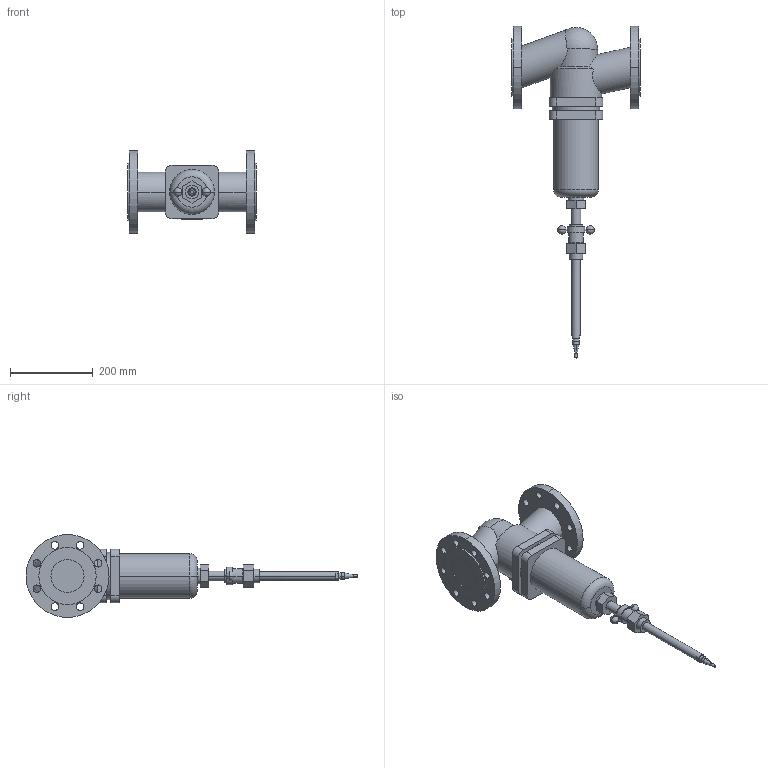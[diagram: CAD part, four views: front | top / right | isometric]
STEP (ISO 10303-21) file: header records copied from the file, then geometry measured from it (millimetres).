
FILE_DESCRIPTION(('CoCreate Modeling STEP Export'),'2;1');
FILE_NAME('c000004776.stp','2011-09-21T 9:19:56',(''),(''),'CoCreate Modeling STEP processor for AP214 (Solid Model)','CoCreate Modeling 17.0 01-Apr-2010 (C) Parametric Technology GmbH','');
FILE_SCHEMA(('AUTOMOTIVE_DESIGN { 1 0 10303 214 1 1 1 1 }'));
Length unit declared in the file: millimetre
Products named in the file (1): 1
Bounding box: 310 x 800.17 x 200 mm (x, y, z)
Volume: 6785681.6 mm3; surface area: 407805.2 mm2
Topology: 1 solids, 1 shells, 170 faces, 432 edges, 279 vertices
Faces by surface type: cylinder 90, plane 64, sphere 10, cone 4, torus 2
Entity records: 6427 total; most frequent: CARTESIAN_POINT 1321, ORIENTED_EDGE 844, DIRECTION 667, EDGE_CURVE 422, VERTEX_POINT 279, AXIS2_PLACEMENT_3D 237, EDGE_LOOP 227, VECTOR 193
